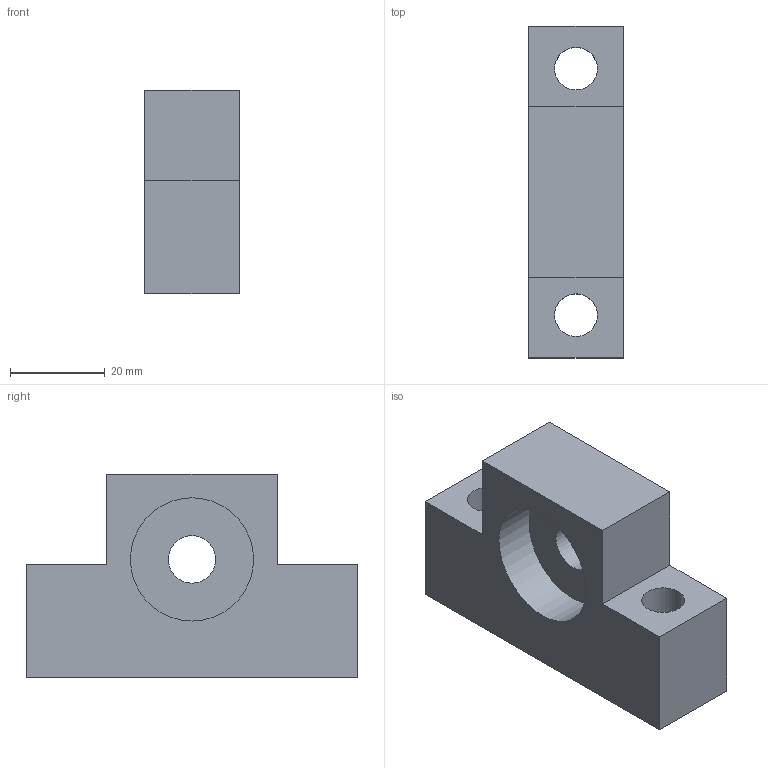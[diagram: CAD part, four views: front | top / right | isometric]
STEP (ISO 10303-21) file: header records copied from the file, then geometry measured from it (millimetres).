
FILE_DESCRIPTION(/* description */ (''),/* implementation_level */ '2;1');
FILE_NAME(/* name */ 'EF12.stp',/* time_stamp */ '2019-07-25T15:42:59+08:00',/* author */ (''),/* organization */ (''),/* preprocessor_version */ 'ST-DEVELOPER v14',/* originating_system */ 'SIEMENS PLM Software NX 8.0',/* authorisation */ '');
FILE_SCHEMA (('AUTOMOTIVE_DESIGN { 1 0 10303 214 3 1 1 1 }'));
Length unit declared in the file: millimetre
Products named in the file (1): Admi17CC99FA5arr
Bounding box: 20 x 70 x 43 mm (x, y, z)
Volume: 37099.3 mm3; surface area: 12979.7 mm2
Topology: 2 solids, 2 shells, 21 faces, 47 edges, 32 vertices
Faces by surface type: plane 14, cylinder 7
Full cylindrical faces by diameter (mm): 9 x2, 10 x1, 26 x3, 28.77 x1
Entity records: 591 total; most frequent: DIRECTION 96, CARTESIAN_POINT 90, ORIENTED_EDGE 76, EDGE_LOOP 38, EDGE_CURVE 38, AXIS2_PLACEMENT_3D 36, FACE_BOUND 33, VERTEX_POINT 30
